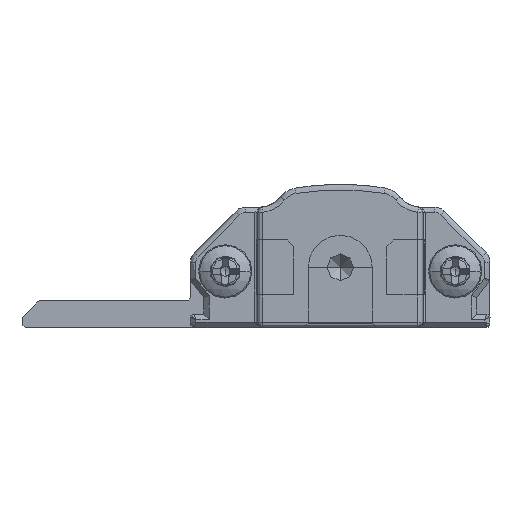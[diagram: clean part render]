
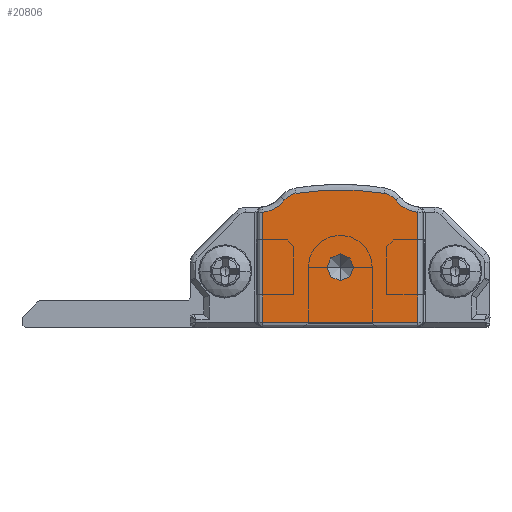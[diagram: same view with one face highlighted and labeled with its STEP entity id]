
A CAD part, front view. The second image highlights one B-rep face of the part: STEP entity #20806.
In plain terms, the highlighted planar face has unit normal (0, -1, 0).
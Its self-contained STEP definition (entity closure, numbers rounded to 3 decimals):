
#119 = CARTESIAN_POINT ( 'NONE',  ( 5.4, -15., 8.612 ) ) ;
#286 = LINE ( 'NONE', #4131, #28067 ) ;
#791 = EDGE_CURVE ( 'NONE', #40850, #7145, #27915, .T. ) ;
#1394 = ORIENTED_EDGE ( 'NONE', *, *, #24977, .T. ) ;
#2127 = ORIENTED_EDGE ( 'NONE', *, *, #43711, .T. ) ;
#2211 = AXIS2_PLACEMENT_3D ( 'NONE', #13649, #24117, #37985 ) ;
#3715 = CARTESIAN_POINT ( 'NONE',  ( 17., -15., 8.612 ) ) ;
#3975 = DIRECTION ( 'NONE',  ( 0., -1., 0. ) ) ;
#4046 = VECTOR ( 'NONE', #40606, 1000. ) ;
#4131 = CARTESIAN_POINT ( 'NONE',  ( 17., -15., 0.4 ) ) ;
#4363 = CIRCLE ( 'NONE', #16043, 1.3 ) ;
#4629 = EDGE_CURVE ( 'NONE', #33561, #45023, #37552, .T. ) ;
#5539 = DIRECTION ( 'NONE',  ( 0., 0., -1. ) ) ;
#6093 = CARTESIAN_POINT ( 'NONE',  ( 11.2, -15., 3.5 ) ) ;
#7145 = VERTEX_POINT ( 'NONE', #6093 ) ;
#7599 = FACE_OUTER_BOUND ( 'NONE', #18317, .T. ) ;
#7689 = CARTESIAN_POINT ( 'NONE',  ( 11.2, -15., -10.376 ) ) ;
#8054 = DIRECTION ( 'NONE',  ( 0., -1., 0. ) ) ;
#8154 = DIRECTION ( 'NONE',  ( 0., -1., 0. ) ) ;
#9113 = CIRCLE ( 'NONE', #19330, 2.4 ) ;
#10134 = DIRECTION ( 'NONE',  ( 0., 0., 1. ) ) ;
#10396 = ORIENTED_EDGE ( 'NONE', *, *, #10601, .T. ) ;
#10601 = EDGE_CURVE ( 'NONE', #26977, #15914, #34286, .T. ) ;
#10927 = CARTESIAN_POINT ( 'NONE',  ( 17., -15., 0.4 ) ) ;
#11005 = DIRECTION ( 'NONE',  ( 0., 1., 0. ) ) ;
#11018 = DIRECTION ( 'NONE',  ( 0., 0., -1. ) ) ;
#11843 = EDGE_CURVE ( 'NONE', #7145, #40850, #31182, .T. ) ;
#13491 = EDGE_LOOP ( 'NONE', ( #18418, #21263 ) ) ;
#13649 = CARTESIAN_POINT ( 'NONE',  ( 17.238, -15., 11. ) ) ;
#14069 = CARTESIAN_POINT ( 'NONE',  ( 11.2, -15., 4.5 ) ) ;
#15914 = VERTEX_POINT ( 'NONE', #30590 ) ;
#16043 = AXIS2_PLACEMENT_3D ( 'NONE', #42007, #32809, #39856 ) ;
#16700 = LINE ( 'NONE', #16927, #4046 ) ;
#16927 = CARTESIAN_POINT ( 'NONE',  ( 5.4, -15., 0.4 ) ) ;
#18100 = ORIENTED_EDGE ( 'NONE', *, *, #44074, .T. ) ;
#18317 = EDGE_LOOP ( 'NONE', ( #10396, #28964, #2127, #35310, #23507, #29180, #18100, #1394 ) ) ;
#18418 = ORIENTED_EDGE ( 'NONE', *, *, #11843, .F. ) ;
#18771 = VERTEX_POINT ( 'NONE', #34238 ) ;
#19330 = AXIS2_PLACEMENT_3D ( 'NONE', #31756, #11005, #20405 ) ;
#19902 = AXIS2_PLACEMENT_3D ( 'NONE', #14069, #3975, #38401 ) ;
#20405 = DIRECTION ( 'NONE',  ( 0., 0., -1. ) ) ;
#20806 = ADVANCED_FACE ( 'NONE', ( #7599, #28614 ), #42487, .T. ) ;
#21263 = ORIENTED_EDGE ( 'NONE', *, *, #791, .F. ) ;
#21652 = EDGE_CURVE ( 'NONE', #15914, #24325, #34204, .T. ) ;
#22877 = CARTESIAN_POINT ( 'NONE',  ( 22.15, -15., 3.606 ) ) ;
#23507 = ORIENTED_EDGE ( 'NONE', *, *, #37584, .T. ) ;
#24117 = DIRECTION ( 'NONE',  ( 0., 1., 0. ) ) ;
#24325 = VERTEX_POINT ( 'NONE', #33528 ) ;
#24922 = DIRECTION ( 'NONE',  ( 1., 0., 0. ) ) ;
#24977 = EDGE_CURVE ( 'NONE', #18771, #26977, #286, .T. ) ;
#25395 = CARTESIAN_POINT ( 'NONE',  ( 11.2, -15., 4.5 ) ) ;
#26681 = VECTOR ( 'NONE', #10134, 1000. ) ;
#26971 = VERTEX_POINT ( 'NONE', #42169 ) ;
#26977 = VERTEX_POINT ( 'NONE', #10927 ) ;
#27915 = CIRCLE ( 'NONE', #19902, 1. ) ;
#28067 = VECTOR ( 'NONE', #24922, 1000. ) ;
#28614 = FACE_BOUND ( 'NONE', #13491, .T. ) ;
#28964 = ORIENTED_EDGE ( 'NONE', *, *, #21652, .T. ) ;
#29000 = AXIS2_PLACEMENT_3D ( 'NONE', #25395, #8054, #11018 ) ;
#29180 = ORIENTED_EDGE ( 'NONE', *, *, #32115, .T. ) ;
#29533 = AXIS2_PLACEMENT_3D ( 'NONE', #36093, #36743, #5539 ) ;
#30590 = CARTESIAN_POINT ( 'NONE',  ( 17., -15., 8.612 ) ) ;
#30656 = CARTESIAN_POINT ( 'NONE',  ( 11.2, -15., 5.5 ) ) ;
#31182 = CIRCLE ( 'NONE', #29000, 1. ) ;
#31756 = CARTESIAN_POINT ( 'NONE',  ( 5.162, -15., 11. ) ) ;
#32115 = EDGE_CURVE ( 'NONE', #26971, #39760, #9113, .T. ) ;
#32809 = DIRECTION ( 'NONE',  ( 0., -1., 0. ) ) ;
#32896 = DIRECTION ( 'NONE',  ( 0., 0., -1. ) ) ;
#33528 = CARTESIAN_POINT ( 'NONE',  ( 15.332, -15., 9.541 ) ) ;
#33561 = VERTEX_POINT ( 'NONE', #38190 ) ;
#34204 = CIRCLE ( 'NONE', #2211, 2.4 ) ;
#34238 = CARTESIAN_POINT ( 'NONE',  ( 5.4, -15., 0.4 ) ) ;
#34286 = LINE ( 'NONE', #3715, #26681 ) ;
#35262 = DIRECTION ( 'NONE',  ( 0., 0., -1. ) ) ;
#35310 = ORIENTED_EDGE ( 'NONE', *, *, #4629, .T. ) ;
#36093 = CARTESIAN_POINT ( 'NONE',  ( 14.3, -15., 8.75 ) ) ;
#36743 = DIRECTION ( 'NONE',  ( 0., -1., 0. ) ) ;
#37500 = CIRCLE ( 'NONE', #29533, 1.3 ) ;
#37552 = CIRCLE ( 'NONE', #39039, 20.676 ) ;
#37584 = EDGE_CURVE ( 'NONE', #45023, #26971, #4363, .T. ) ;
#37805 = AXIS2_PLACEMENT_3D ( 'NONE', #22877, #40173, #32896 ) ;
#37985 = DIRECTION ( 'NONE',  ( 0., 0., -1. ) ) ;
#38190 = CARTESIAN_POINT ( 'NONE',  ( 14.508, -15., 10.034 ) ) ;
#38401 = DIRECTION ( 'NONE',  ( 0., 0., -1. ) ) ;
#39039 = AXIS2_PLACEMENT_3D ( 'NONE', #7689, #8154, #35262 ) ;
#39760 = VERTEX_POINT ( 'NONE', #119 ) ;
#39856 = DIRECTION ( 'NONE',  ( 0., 0., -1. ) ) ;
#40173 = DIRECTION ( 'NONE',  ( 0., -1., 0. ) ) ;
#40606 = DIRECTION ( 'NONE',  ( 0., 0., -1. ) ) ;
#40850 = VERTEX_POINT ( 'NONE', #30656 ) ;
#42007 = CARTESIAN_POINT ( 'NONE',  ( 8.1, -15., 8.75 ) ) ;
#42169 = CARTESIAN_POINT ( 'NONE',  ( 7.068, -15., 9.541 ) ) ;
#42299 = CARTESIAN_POINT ( 'NONE',  ( 7.892, -15., 10.034 ) ) ;
#42487 = PLANE ( 'NONE',  #37805 ) ;
#43711 = EDGE_CURVE ( 'NONE', #24325, #33561, #37500, .T. ) ;
#44074 = EDGE_CURVE ( 'NONE', #39760, #18771, #16700, .T. ) ;
#45023 = VERTEX_POINT ( 'NONE', #42299 ) ;
